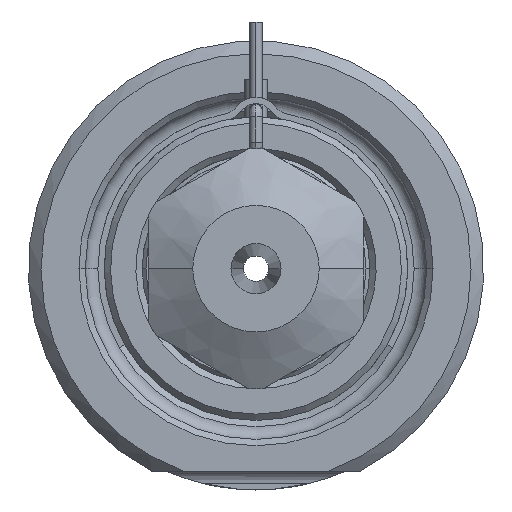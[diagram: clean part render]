
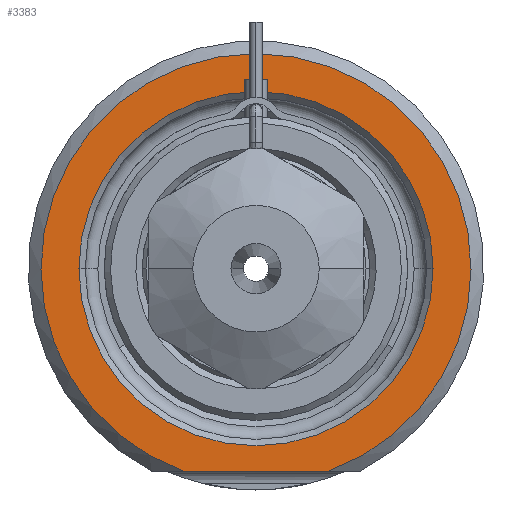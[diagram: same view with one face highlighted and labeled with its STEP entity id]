
A CAD part, front view. The second image highlights one B-rep face of the part: STEP entity #3383.
In plain terms, the highlighted planar face has unit normal (0, -1, 0).
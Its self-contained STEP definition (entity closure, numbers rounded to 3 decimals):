
#682=DIRECTION('',(1.,0.,0.));
#683=VECTOR('',#682,11.489);
#684=CARTESIAN_POINT('',(-5.745,0.,-16.));
#685=LINE('',#684,#683);
#686=CARTESIAN_POINT('',(0.,0.,0.));
#687=DIRECTION('',(0.,1.,0.));
#688=DIRECTION('',(-1.,0.,0.));
#689=AXIS2_PLACEMENT_3D('',#686,#687,#688);
#691=CARTESIAN_POINT('',(0.,0.,0.));
#692=DIRECTION('',(0.,1.,0.));
#693=DIRECTION('',(1.,0.,0.));
#694=AXIS2_PLACEMENT_3D('',#691,#692,#693);
#798=CARTESIAN_POINT('',(0.,0.,0.));
#799=DIRECTION('',(0.,-1.,0.));
#800=DIRECTION('',(0.338,0.,-0.941));
#801=AXIS2_PLACEMENT_3D('',#798,#799,#800);
#2166=CARTESIAN_POINT('',(-14.,0.,0.));
#2167=CARTESIAN_POINT('',(14.,0.,0.));
#2168=VERTEX_POINT('',#2166);
#2169=VERTEX_POINT('',#2167);
#2206=CARTESIAN_POINT('',(-5.745,0.,-16.));
#2207=CARTESIAN_POINT('',(5.745,0.,-16.));
#2208=VERTEX_POINT('',#2206);
#2209=VERTEX_POINT('',#2207);
#3367=CARTESIAN_POINT('',(0.,0.,0.));
#3368=DIRECTION('',(0.,-1.,0.));
#3369=DIRECTION('',(1.,0.,0.));
#3370=AXIS2_PLACEMENT_3D('',#3367,#3368,#3369);
#3371=PLANE('',#3370);
#3373=ORIENTED_EDGE('',*,*,#3372,.F.);
#3375=ORIENTED_EDGE('',*,*,#3374,.F.);
#3376=EDGE_LOOP('',(#3373,#3375));
#3377=FACE_OUTER_BOUND('',#3376,.F.);
#3379=ORIENTED_EDGE('',*,*,#3378,.F.);
#3380=ORIENTED_EDGE('',*,*,#3357,.F.);
#3381=EDGE_LOOP('',(#3379,#3380));
#3382=FACE_BOUND('',#3381,.F.);
#3383=ADVANCED_FACE('',(#3377,#3382),#3371,.T.);
#690=CIRCLE('',#689,14.);
#695=CIRCLE('',#694,14.);
#802=CIRCLE('',#801,17.);
#3357=EDGE_CURVE('',#2169,#2168,#695,.T.);
#3372=EDGE_CURVE('',#2208,#2209,#685,.T.);
#3374=EDGE_CURVE('',#2209,#2208,#802,.T.);
#3378=EDGE_CURVE('',#2168,#2169,#690,.T.);
